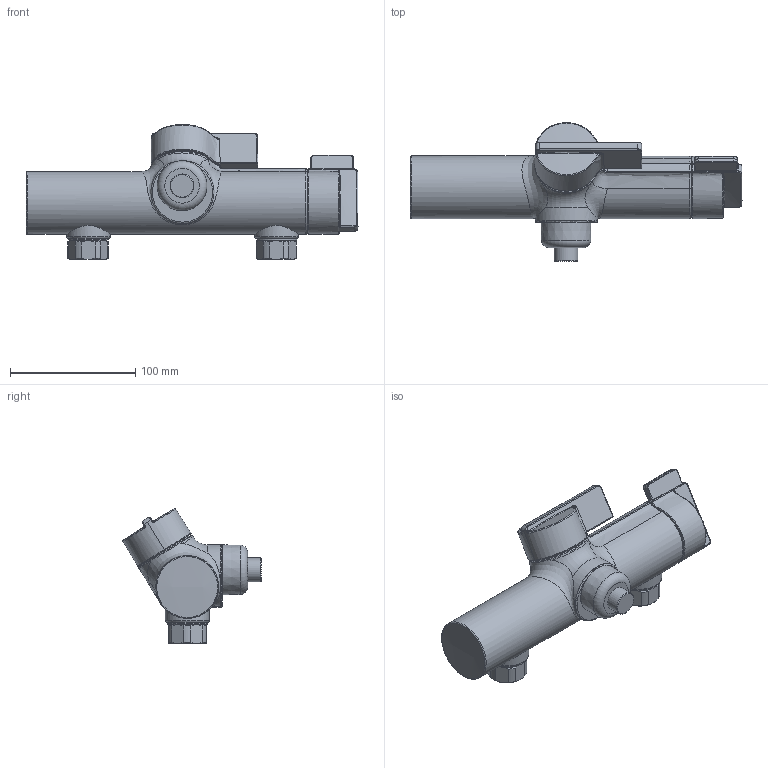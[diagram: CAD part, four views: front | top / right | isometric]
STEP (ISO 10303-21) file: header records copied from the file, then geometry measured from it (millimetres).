
FILE_DESCRIPTION (( 'STEP AP203' ), '1' );
FILE_NAME ('7267.STEP', '2017-03-09T06:00:03', ( '' ), ( '' ), 'SwSTEP 2.0', 'SolidWorks 2016', '' );
FILE_SCHEMA (( 'CONFIG_CONTROL_DESIGN' ));
Length unit declared in the file: millimetre
Products named in the file (1): 7267
Bounding box: 264.75 x 110.42 x 107.62 mm (x, y, z)
Volume: 657612.9 mm3; surface area: 69556.2 mm2
Topology: 1 solids, 1 shells, 241 faces, 577 edges, 358 vertices
Faces by surface type: bspline 105, plane 43, cylinder 42, cone 28, torus 12, sphere 11
Full cylindrical faces by diameter (mm): 18.97 x1, 24 x2, 24.894 x3, 26 x2, 32 x2, 35 x2, 45.131 x1, 45.987 x1, 49.99 x1, 50 x1
Entity records: 31025 total; most frequent: CARTESIAN_POINT 26523, ORIENTED_EDGE 1066, DIRECTION 619, EDGE_CURVE 533, VERTEX_POINT 345, B_SPLINE_CURVE_WITH_KNOTS 322, EDGE_LOOP 292, AXIS2_PLACEMENT_3D 284
